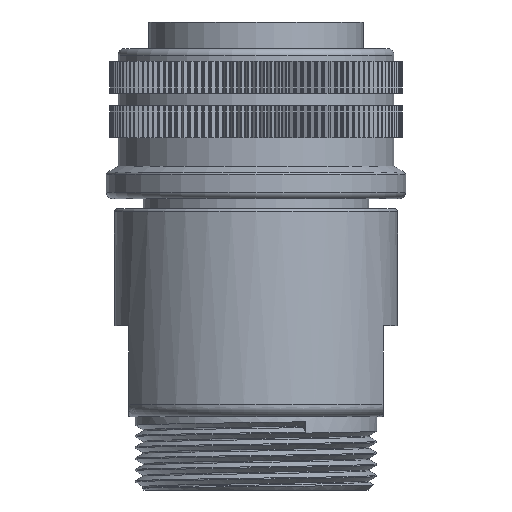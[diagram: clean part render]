
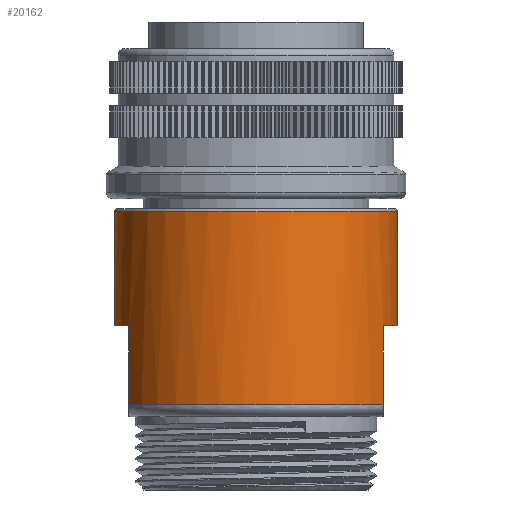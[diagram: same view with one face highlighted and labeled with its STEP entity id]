
A CAD part, front view. The second image highlights one B-rep face of the part: STEP entity #20162.
In plain terms, the highlighted cylindrical face has radius 17.6 mm (diameter 35.2 mm), a full revolution.
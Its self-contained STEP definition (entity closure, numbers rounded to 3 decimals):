
#770 = CARTESIAN_POINT ( 'NONE',  ( 0., 0., -17.004 ) ) ;
#1032 = DIRECTION ( 'NONE',  ( 0., 0., -1. ) ) ;
#1098 = AXIS2_PLACEMENT_3D ( 'NONE', #7765, #76980, #56681 ) ;
#1382 = DIRECTION ( 'NONE',  ( 0., 0., 1. ) ) ;
#1724 = DIRECTION ( 'NONE',  ( -1., 0., 0. ) ) ;
#1966 = CARTESIAN_POINT ( 'NONE',  ( -15.8, -7.754, -47.58 ) ) ;
#1967 = EDGE_LOOP ( 'NONE', ( #49027, #14458, #78421, #35207, #67191, #57515, #34332, #50197 ) ) ;
#3716 = CARTESIAN_POINT ( 'NONE',  ( -15.8, -7.754, -37.78 ) ) ;
#4008 = VECTOR ( 'NONE', #1032, 1000. ) ;
#4676 = CARTESIAN_POINT ( 'NONE',  ( 1.1, 17.566, -30.791 ) ) ;
#4972 = CARTESIAN_POINT ( 'NONE',  ( -1.404, 17.547, -28.927 ) ) ;
#5009 = CYLINDRICAL_SURFACE ( 'NONE', #63565, 17.6 ) ;
#6101 = LINE ( 'NONE', #76477, #22384 ) ;
#7765 = CARTESIAN_POINT ( 'NONE',  ( 0., 0., -47.58 ) ) ;
#8426 = CARTESIAN_POINT ( 'NONE',  ( 15.8, -7.754, -37.78 ) ) ;
#8997 = DIRECTION ( 'NONE',  ( 0., 0., -1. ) ) ;
#9173 = EDGE_LOOP ( 'NONE', ( #46158 ) ) ;
#9514 = CIRCLE ( 'NONE', #29987, 17.6 ) ;
#9786 = DIRECTION ( 'NONE',  ( 0., 0., 1. ) ) ;
#10405 = FACE_BOUND ( 'NONE', #9173, .T. ) ;
#11375 = CARTESIAN_POINT ( 'NONE',  ( 1.556, 17.531, -29.711 ) ) ;
#11970 = CARTESIAN_POINT ( 'NONE',  ( -0.429, 17.6, -31.24 ) ) ;
#14118 = CARTESIAN_POINT ( 'NONE',  ( 17.6, 0., -23.61 ) ) ;
#14458 = ORIENTED_EDGE ( 'NONE', *, *, #27338, .F. ) ;
#17753 = CARTESIAN_POINT ( 'NONE',  ( 1.101, 17.566, -28.629 ) ) ;
#18049 = CARTESIAN_POINT ( 'NONE',  ( -1.556, 17.531, -29.289 ) ) ;
#18689 = CARTESIAN_POINT ( 'NONE',  ( 0., 0., -23.61 ) ) ;
#18966 = CARTESIAN_POINT ( 'NONE',  ( 0.429, 17.6, -28.181 ) ) ;
#20162 = ADVANCED_FACE ( 'NONE', ( #10405, #88723, #73396 ), #5009, .T. ) ;
#20282 = VERTEX_POINT ( 'NONE', #1966 ) ;
#21733 = DIRECTION ( 'NONE',  ( 1., 0., 0. ) ) ;
#22384 = VECTOR ( 'NONE', #76775, 1000. ) ;
#22978 = VERTEX_POINT ( 'NONE', #64800 ) ;
#23281 = CIRCLE ( 'NONE', #1098, 17.6 ) ;
#24732 = CARTESIAN_POINT ( 'NONE',  ( 1.405, 17.547, -28.928 ) ) ;
#25026 = CARTESIAN_POINT ( 'NONE',  ( -0.797, 17.585, -28.331 ) ) ;
#25121 = CARTESIAN_POINT ( 'NONE',  ( 15.8, 7.754, -37.78 ) ) ;
#26789 = AXIS2_PLACEMENT_3D ( 'NONE', #50639, #8997, #1724 ) ;
#27338 = EDGE_CURVE ( 'NONE', #74742, #74009, #86625, .T. ) ;
#29510 = LINE ( 'NONE', #25121, #43623 ) ;
#29987 = AXIS2_PLACEMENT_3D ( 'NONE', #18689, #73620, #39032 ) ;
#30202 = DIRECTION ( 'NONE',  ( -1., 0., 0. ) ) ;
#31771 = LINE ( 'NONE', #45936, #87188 ) ;
#32640 = CARTESIAN_POINT ( 'NONE',  ( -1.1, 17.566, -30.791 ) ) ;
#34332 = ORIENTED_EDGE ( 'NONE', *, *, #80016, .F. ) ;
#35108 = EDGE_CURVE ( 'NONE', #79768, #74742, #43025, .T. ) ;
#35207 = ORIENTED_EDGE ( 'NONE', *, *, #79609, .T. ) ;
#35659 = CARTESIAN_POINT ( 'NONE',  ( 15.8, -7.754, -37.78 ) ) ;
#36288 = CARTESIAN_POINT ( 'NONE',  ( 15.8, 7.754, -37.78 ) ) ;
#37573 = CARTESIAN_POINT ( 'NONE',  ( -15.8, 7.754, -37.78 ) ) ;
#38131 = CARTESIAN_POINT ( 'NONE',  ( 15.8, 7.754, -47.58 ) ) ;
#38253 = EDGE_CURVE ( 'NONE', #87257, #87257, #63029, .T. ) ;
#39032 = DIRECTION ( 'NONE',  ( 1., 0., 0. ) ) ;
#39608 = CARTESIAN_POINT ( 'NONE',  ( -0.796, 17.585, -31.09 ) ) ;
#39913 = CARTESIAN_POINT ( 'NONE',  ( -1.405, 17.547, -30.493 ) ) ;
#40226 = EDGE_CURVE ( 'NONE', #83976, #83976, #9514, .T. ) ;
#43025 = CIRCLE ( 'NONE', #26789, 17.6 ) ;
#43410 = AXIS2_PLACEMENT_3D ( 'NONE', #50292, #78461, #30202 ) ;
#43497 = VERTEX_POINT ( 'NONE', #3716 ) ;
#43623 = VECTOR ( 'NONE', #81282, 1000. ) ;
#44407 = EDGE_CURVE ( 'NONE', #48957, #22978, #23281, .T. ) ;
#45936 = CARTESIAN_POINT ( 'NONE',  ( -15.8, -7.754, -37.78 ) ) ;
#46158 = ORIENTED_EDGE ( 'NONE', *, *, #38253, .T. ) ;
#46288 = CARTESIAN_POINT ( 'NONE',  ( 1.404, 17.547, -30.493 ) ) ;
#46593 = CARTESIAN_POINT ( 'NONE',  ( 0.429, 17.6, -31.239 ) ) ;
#48142 = ORIENTED_EDGE ( 'NONE', *, *, #40226, .F. ) ;
#48515 = EDGE_LOOP ( 'NONE', ( #48142 ) ) ;
#48957 = VERTEX_POINT ( 'NONE', #38131 ) ;
#49027 = ORIENTED_EDGE ( 'NONE', *, *, #63781, .T. ) ;
#49368 = CARTESIAN_POINT ( 'NONE',  ( 0., 17.6, -31.239 ) ) ;
#50197 = ORIENTED_EDGE ( 'NONE', *, *, #65120, .T. ) ;
#50292 = CARTESIAN_POINT ( 'NONE',  ( 0., 0., -37.78 ) ) ;
#50639 = CARTESIAN_POINT ( 'NONE',  ( 0., 0., -37.78 ) ) ;
#52977 = CARTESIAN_POINT ( 'NONE',  ( 0.797, 17.585, -31.09 ) ) ;
#53266 = CARTESIAN_POINT ( 'NONE',  ( -0.429, 17.6, -28.18 ) ) ;
#56681 = DIRECTION ( 'NONE',  ( 1., 0., 0. ) ) ;
#57515 = ORIENTED_EDGE ( 'NONE', *, *, #88734, .F. ) ;
#59994 = CARTESIAN_POINT ( 'NONE',  ( 1.556, 17.531, -29.289 ) ) ;
#60574 = CARTESIAN_POINT ( 'NONE',  ( 0., 17.6, -31.239 ) ) ;
#63029 = B_SPLINE_CURVE_WITH_KNOTS ( 'NONE', 3,
 ( #80893, #46593, #52977, #4676, #46288, #73291, #11375, #59994, #24732, #17753, #66953, #18966, #74201, #53266, #25026, #88229, #4972, #18049, #67558, #73592, #39913, #32640, #39608, #11970, #60574 ),
 .UNSPECIFIED., .T., .F.,
 ( 4, 3, 3, 3, 3, 3, 3, 3, 4 ),
 ( 0., 0.125, 0.25, 0.375, 0.5, 0.625, 0.75, 0.875, 1. ),
 .UNSPECIFIED. ) ;
#63565 = AXIS2_PLACEMENT_3D ( 'NONE', #770, #1382, #21733 ) ;
#63781 = EDGE_CURVE ( 'NONE', #20282, #74009, #78677, .T. ) ;
#64800 = CARTESIAN_POINT ( 'NONE',  ( -15.8, 7.754, -47.58 ) ) ;
#65120 = EDGE_CURVE ( 'NONE', #43497, #20282, #31771, .T. ) ;
#65318 = CIRCLE ( 'NONE', #43410, 17.6 ) ;
#66953 = CARTESIAN_POINT ( 'NONE',  ( 0.797, 17.585, -28.33 ) ) ;
#67191 = ORIENTED_EDGE ( 'NONE', *, *, #44407, .T. ) ;
#67558 = CARTESIAN_POINT ( 'NONE',  ( -1.556, 17.531, -29.711 ) ) ;
#69017 = CARTESIAN_POINT ( 'NONE',  ( 15.8, -7.754, -47.58 ) ) ;
#73291 = CARTESIAN_POINT ( 'NONE',  ( 1.556, 17.531, -30.133 ) ) ;
#73396 = FACE_OUTER_BOUND ( 'NONE', #48515, .T. ) ;
#73592 = CARTESIAN_POINT ( 'NONE',  ( -1.556, 17.531, -30.132 ) ) ;
#73620 = DIRECTION ( 'NONE',  ( 0., 0., 1. ) ) ;
#74009 = VERTEX_POINT ( 'NONE', #69017 ) ;
#74201 = CARTESIAN_POINT ( 'NONE',  ( 0., 17.6, -28.181 ) ) ;
#74742 = VERTEX_POINT ( 'NONE', #8426 ) ;
#76477 = CARTESIAN_POINT ( 'NONE',  ( -15.8, 7.754, -37.78 ) ) ;
#76775 = DIRECTION ( 'NONE',  ( 0., 0., -1. ) ) ;
#76980 = DIRECTION ( 'NONE',  ( 0., 0., 1. ) ) ;
#78105 = CARTESIAN_POINT ( 'NONE',  ( 0., 0., -47.58 ) ) ;
#78421 = ORIENTED_EDGE ( 'NONE', *, *, #35108, .F. ) ;
#78461 = DIRECTION ( 'NONE',  ( 0., 0., -1. ) ) ;
#78677 = CIRCLE ( 'NONE', #87707, 17.6 ) ;
#79609 = EDGE_CURVE ( 'NONE', #79768, #48957, #29510, .T. ) ;
#79768 = VERTEX_POINT ( 'NONE', #36288 ) ;
#80016 = EDGE_CURVE ( 'NONE', #43497, #86949, #65318, .T. ) ;
#80893 = CARTESIAN_POINT ( 'NONE',  ( 0., 17.6, -31.239 ) ) ;
#81282 = DIRECTION ( 'NONE',  ( 0., 0., -1. ) ) ;
#81428 = DIRECTION ( 'NONE',  ( 0., 0., -1. ) ) ;
#83976 = VERTEX_POINT ( 'NONE', #14118 ) ;
#86033 = DIRECTION ( 'NONE',  ( 1., 0., 0. ) ) ;
#86625 = LINE ( 'NONE', #35659, #4008 ) ;
#86949 = VERTEX_POINT ( 'NONE', #37573 ) ;
#87188 = VECTOR ( 'NONE', #81428, 1000. ) ;
#87257 = VERTEX_POINT ( 'NONE', #49368 ) ;
#87707 = AXIS2_PLACEMENT_3D ( 'NONE', #78105, #9786, #86033 ) ;
#88229 = CARTESIAN_POINT ( 'NONE',  ( -1.101, 17.566, -28.629 ) ) ;
#88723 = FACE_OUTER_BOUND ( 'NONE', #1967, .T. ) ;
#88734 = EDGE_CURVE ( 'NONE', #86949, #22978, #6101, .T. ) ;
